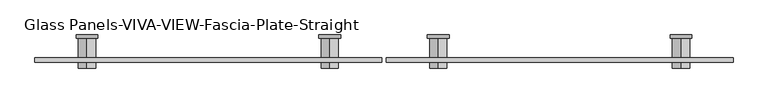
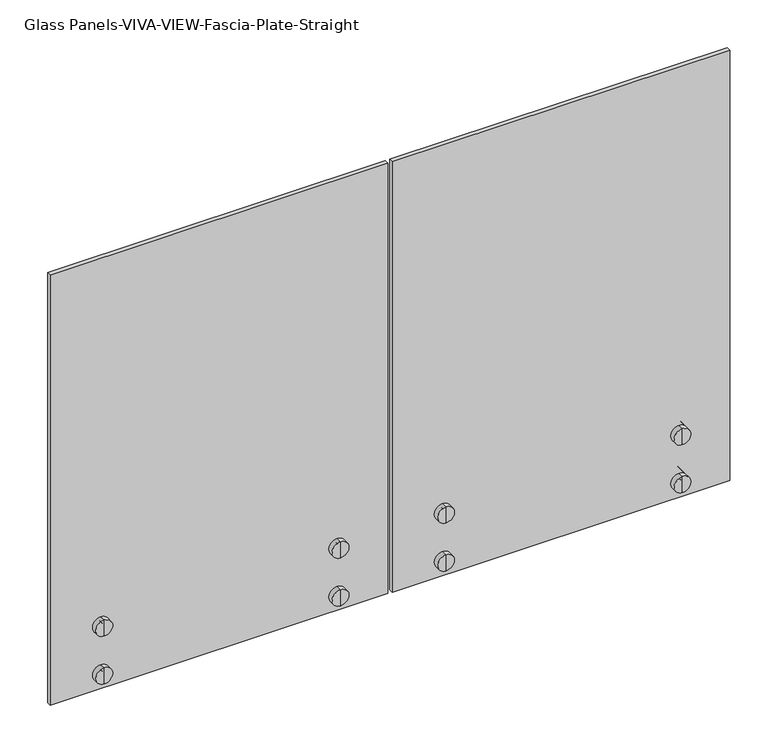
"""IFC4 building model written with IfcOpenShell, lengths in millimetres: railing geometry, Glass Panels-VIVA-VIEW-Fascia-Plate-Straight."""

from ifc_helpers import new_model, si_unit, point, frame, frame_2d, origin, place, context, project, spatial, polyline, circle_curve, trimmed, segment, composite_curve, outline, extrude, source, transform, mapped, element, save
from ifc_brep_helpers import plane_surface, cylinder_surface, advanced_brep


def glass_panels_viva_view_fascia_plate_straight_955ab671(model_context):
    return source(origin(), model_context, "Body", "SolidModel", [
        advanced_brep(
        [(16277.3042944, -15547.047006, -254.0), (16277.3042944, -15547.047006, -203.2), (16277.3042944, -15547.047006, -228.6), (16277.3042944, -15529.584506, -254.0), (16277.3042944, -15529.584506, -203.2), (16277.3042944, -15529.584506, -234.315), (16277.3042944, -15529.584506, -222.885), (16277.3042944, -15516.884506, -234.315), (16277.3042944, -15516.884506, -222.885), (16277.3042944, -15516.884506, -254.0), (16277.3042944, -15516.884506, -203.2), (16277.3042944, -15459.7346529, -254.0), (16277.3042944, -15459.7346529, -203.2), (16277.3042944, -15459.7346529, -228.6)],
        [
            (0, 1, circle_curve(frame((16277.3042944, -15547.047006, -228.6), z_axis=(0.0, -1.0, 0.0), x_axis=(0.0, 0.0, 1.0)), 25.4)),
            (1, 2),
            (2, 0),
            (1, 0, circle_curve(frame((16277.3042944, -15547.047006, -228.6), z_axis=(0.0, -1.0, 0.0), x_axis=(0.0, 0.0, 1.0)), 25.4)),
            (3, 4, circle_curve(frame((16277.3042944, -15529.584506, -228.6), z_axis=(0.0, -1.0, 0.0), x_axis=(0.0, 0.0, 1.0)), 25.4)),
            (4, 1),
            (0, 3),
            (4, 3, circle_curve(frame((16277.3042944, -15529.584506, -228.6), z_axis=(0.0, -1.0, 0.0), x_axis=(0.0, 0.0, 1.0)), 25.4)),
            (5, 6, circle_curve(frame((16277.3042944, -15529.584506, -228.6), z_axis=(0.0, -1.0, 0.0), x_axis=(0.0, 0.0, 1.0)), 5.715)),
            (6, 4),
            (3, 5),
            (6, 5, circle_curve(frame((16277.3042944, -15529.584506, -228.6), z_axis=(0.0, -1.0, 0.0), x_axis=(0.0, 0.0, 1.0)), 5.715)),
            (7, 8, circle_curve(frame((16277.3042944, -15516.884506, -228.6), z_axis=(0.0, -1.0, 0.0), x_axis=(0.0, 0.0, 1.0)), 5.715)),
            (8, 6),
            (5, 7),
            (8, 7, circle_curve(frame((16277.3042944, -15516.884506, -228.6), z_axis=(0.0, -1.0, 0.0), x_axis=(0.0, 0.0, 1.0)), 5.715)),
            (9, 10, circle_curve(frame((16277.3042944, -15516.884506, -228.6), z_axis=(0.0, -1.0, 0.0), x_axis=(0.0, 0.0, 1.0)), 25.4)),
            (10, 8),
            (7, 9),
            (10, 9, circle_curve(frame((16277.3042944, -15516.884506, -228.6), z_axis=(0.0, -1.0, 0.0), x_axis=(0.0, 0.0, 1.0)), 25.4)),
            (11, 12, circle_curve(frame((16277.3042944, -15459.7346529, -228.6), z_axis=(0.0, -1.0, 0.0), x_axis=(0.0, 0.0, 1.0)), 25.4)),
            (12, 10),
            (9, 11),
            (12, 11, circle_curve(frame((16277.3042944, -15459.7346529, -228.6), z_axis=(0.0, -1.0, 0.0), x_axis=(0.0, 0.0, 1.0)), 25.4)),
            (13, 12),
            (11, 13),
        ],
        [
            plane_surface(frame((16277.3042944, -15547.047006, -228.6), z_axis=(0.0, -1.0, 0.0), x_axis=(0.0, 0.0, 1.0))),
            cylinder_surface(frame((16277.3042944, -15615.3096529, -228.6), z_axis=(0.0, 1.0, 0.0), x_axis=(0.0, 0.0, 1.0)), 25.4),
            plane_surface(frame((16277.3042944, -15529.584506, -228.6), z_axis=(0.0, 1.0, 0.0), x_axis=(0.0, 0.0, 1.0))),
            cylinder_surface(frame((16277.3042944, -15615.3096529, -228.6), z_axis=(0.0, 1.0, 0.0), x_axis=(0.0, 0.0, 1.0)), 5.715),
            plane_surface(frame((16277.3042944, -15516.884506, -228.6), z_axis=(0.0, -1.0, 0.0), x_axis=(0.0, 0.0, 1.0))),
            plane_surface(frame((16277.3042944, -15459.7346529, -228.6), z_axis=(0.0, 1.0, 0.0), x_axis=(0.0, 0.0, 1.0))),
        ],
        [
            (0, [[1, 2, 3]]),
            (0, [[4, -3, -2]]),
            (1, [[5, 6, -1, 7]]),
            (1, [[8, -7, -4, -6]]),
            (2, [[9, 10, -5, 11]]),
            (2, [[12, -11, -8, -10]]),
            (3, [[13, 14, -9, 15]]),
            (3, [[16, -15, -12, -14]]),
            (4, [[17, 18, -13, 19]]),
            (4, [[20, -19, -16, -18]]),
            (1, [[21, 22, -17, 23]]),
            (1, [[24, -23, -20, -22]]),
            (5, [[25, -21, 26]]),
            (5, [[-26, -24, -25]]),
        ],
    ),
        advanced_brep(
        [(16277.3042944, -15529.584506, -81.915), (16277.3042944, -15529.584506, -70.485), (16277.3042944, -15529.584506, -50.8), (16277.3042944, -15529.584506, -101.6), (16277.3042944, -15516.884506, -81.915), (16277.3042944, -15516.884506, -70.485), (16277.3042944, -15516.884506, -101.6), (16277.3042944, -15516.884506, -50.8), (16277.3042944, -15459.7346529, -101.6), (16277.3042944, -15459.7346529, -50.8), (16277.3042944, -15459.7346529, -76.2), (16277.3042944, -15547.047006, -101.6), (16277.3042944, -15547.047006, -50.8), (16277.3042944, -15547.047006, -76.2)],
        [
            (0, 1, circle_curve(frame((16277.3042944, -15529.584506, -76.2), z_axis=(0.0, -1.0, 0.0), x_axis=(0.0, 0.0, 1.0)), 5.715)),
            (1, 2),
            (2, 3, circle_curve(frame((16277.3042944, -15529.584506, -76.2), z_axis=(0.0, 1.0, 0.0), x_axis=(0.0, 0.0, 1.0)), 25.4)),
            (3, 0),
            (1, 0, circle_curve(frame((16277.3042944, -15529.584506, -76.2), z_axis=(0.0, -1.0, 0.0), x_axis=(0.0, 0.0, 1.0)), 5.715)),
            (3, 2, circle_curve(frame((16277.3042944, -15529.584506, -76.2), z_axis=(0.0, 1.0, 0.0), x_axis=(0.0, 0.0, 1.0)), 25.4)),
            (4, 5, circle_curve(frame((16277.3042944, -15516.884506, -76.2), z_axis=(0.0, -1.0, 0.0), x_axis=(0.0, 0.0, 1.0)), 5.715)),
            (5, 1),
            (0, 4),
            (5, 4, circle_curve(frame((16277.3042944, -15516.884506, -76.2), z_axis=(0.0, -1.0, 0.0), x_axis=(0.0, 0.0, 1.0)), 5.715)),
            (6, 7, circle_curve(frame((16277.3042944, -15516.884506, -76.2), z_axis=(0.0, -1.0, 0.0), x_axis=(0.0, 0.0, 1.0)), 25.4)),
            (7, 5),
            (4, 6),
            (7, 6, circle_curve(frame((16277.3042944, -15516.884506, -76.2), z_axis=(0.0, -1.0, 0.0), x_axis=(0.0, 0.0, 1.0)), 25.4)),
            (8, 9, circle_curve(frame((16277.3042944, -15459.7346529, -76.2), z_axis=(0.0, -1.0, 0.0), x_axis=(0.0, 0.0, 1.0)), 25.4)),
            (9, 7),
            (6, 8),
            (9, 8, circle_curve(frame((16277.3042944, -15459.7346529, -76.2), z_axis=(0.0, -1.0, 0.0), x_axis=(0.0, 0.0, 1.0)), 25.4)),
            (10, 9),
            (8, 10),
            (11, 12, circle_curve(frame((16277.3042944, -15547.047006, -76.2), z_axis=(0.0, -1.0, 0.0), x_axis=(0.0, 0.0, 1.0)), 25.4)),
            (12, 13),
            (13, 11),
            (12, 11, circle_curve(frame((16277.3042944, -15547.047006, -76.2), z_axis=(0.0, -1.0, 0.0), x_axis=(0.0, 0.0, 1.0)), 25.4)),
            (2, 12),
            (11, 3),
        ],
        [
            plane_surface(frame((16277.3042944, -15529.584506, -76.2), z_axis=(0.0, 1.0, 0.0), x_axis=(0.0, 0.0, 1.0))),
            cylinder_surface(frame((16277.3042944, -15615.3096529, -76.2), z_axis=(0.0, 1.0, 0.0), x_axis=(0.0, 0.0, 1.0)), 5.715),
            plane_surface(frame((16277.3042944, -15516.884506, -76.2), z_axis=(0.0, -1.0, 0.0), x_axis=(0.0, 0.0, 1.0))),
            cylinder_surface(frame((16277.3042944, -15615.3096529, -76.2), z_axis=(0.0, 1.0, 0.0), x_axis=(0.0, 0.0, 1.0)), 25.4),
            plane_surface(frame((16277.3042944, -15459.7346529, -76.2), z_axis=(0.0, 1.0, 0.0), x_axis=(0.0, 0.0, 1.0))),
            plane_surface(frame((16277.3042944, -15547.047006, -76.2), z_axis=(0.0, -1.0, 0.0), x_axis=(0.0, 0.0, 1.0))),
        ],
        [
            (0, [[1, 2, 3, 4]]),
            (0, [[5, -4, 6, -2]]),
            (1, [[7, 8, -1, 9]]),
            (1, [[10, -9, -5, -8]]),
            (2, [[11, 12, -7, 13]]),
            (2, [[14, -13, -10, -12]]),
            (3, [[15, 16, -11, 17]]),
            (3, [[18, -17, -14, -16]]),
            (4, [[19, -15, 20]]),
            (4, [[-20, -18, -19]]),
            (5, [[21, 22, 23]]),
            (5, [[24, -23, -22]]),
            (3, [[-3, 25, -21, 26]]),
            (3, [[-6, -26, -24, -25]]),
        ],
    ),
        extrude(outline(composite_curve([segment(polyline([(-76.2, 16245.5542944), (-228.6, 16245.5542944)]), True, "CONTINUOUS"), segment(trimmed(circle_curve(frame_2d((-228.6, 16277.3042944)), 31.75), [point((-228.6, 16245.5542944))], [point((-228.6, 16309.0542944))], False, "CARTESIAN"), True, "CONTINUOUS"), segment(polyline([(-228.6, 16309.0542944), (-76.2, 16309.0542944)]), True, "CONTINUOUS"), segment(trimmed(circle_curve(frame_2d((-76.2, 16277.3042944)), 31.75), [point((-76.2, 16309.0542944))], [point((-76.2, 16245.5542944))], False, "CARTESIAN"), True, "CONTINUOUS")], self_intersect=False)), frame((0.0, -15459.7346529, 0.0), z_axis=(0.0, 1.0, 0.0), x_axis=(0.0, 0.0, 1.0)), (0.0, 0.0, 1.0), 9.525),
        advanced_brep(
        [(16988.5042944, -15547.047006, -254.0), (16988.5042944, -15547.047006, -203.2), (16988.5042944, -15547.047006, -228.6), (16988.5042944, -15529.584506, -254.0), (16988.5042944, -15529.584506, -203.2), (16988.5042944, -15529.584506, -234.315), (16988.5042944, -15529.584506, -222.885), (16988.5042944, -15516.884506, -234.315), (16988.5042944, -15516.884506, -222.885), (16988.5042944, -15516.884506, -254.0), (16988.5042944, -15516.884506, -203.2), (16988.5042944, -15459.7346529, -254.0), (16988.5042944, -15459.7346529, -203.2), (16988.5042944, -15459.7346529, -228.6)],
        [
            (0, 1, circle_curve(frame((16988.5042944, -15547.047006, -228.6), z_axis=(0.0, -1.0, 0.0), x_axis=(0.0, 0.0, 1.0)), 25.4)),
            (1, 2),
            (2, 0),
            (1, 0, circle_curve(frame((16988.5042944, -15547.047006, -228.6), z_axis=(0.0, -1.0, 0.0), x_axis=(0.0, 0.0, 1.0)), 25.4)),
            (3, 4, circle_curve(frame((16988.5042944, -15529.584506, -228.6), z_axis=(0.0, -1.0, 0.0), x_axis=(0.0, 0.0, 1.0)), 25.4)),
            (4, 1),
            (0, 3),
            (4, 3, circle_curve(frame((16988.5042944, -15529.584506, -228.6), z_axis=(0.0, -1.0, 0.0), x_axis=(0.0, 0.0, 1.0)), 25.4)),
            (5, 6, circle_curve(frame((16988.5042944, -15529.584506, -228.6), z_axis=(0.0, -1.0, 0.0), x_axis=(0.0, 0.0, 1.0)), 5.715)),
            (6, 4),
            (3, 5),
            (6, 5, circle_curve(frame((16988.5042944, -15529.584506, -228.6), z_axis=(0.0, -1.0, 0.0), x_axis=(0.0, 0.0, 1.0)), 5.715)),
            (7, 8, circle_curve(frame((16988.5042944, -15516.884506, -228.6), z_axis=(0.0, -1.0, 0.0), x_axis=(0.0, 0.0, 1.0)), 5.715)),
            (8, 6),
            (5, 7),
            (8, 7, circle_curve(frame((16988.5042944, -15516.884506, -228.6), z_axis=(0.0, -1.0, 0.0), x_axis=(0.0, 0.0, 1.0)), 5.715)),
            (9, 10, circle_curve(frame((16988.5042944, -15516.884506, -228.6), z_axis=(0.0, -1.0, 0.0), x_axis=(0.0, 0.0, 1.0)), 25.4)),
            (10, 8),
            (7, 9),
            (10, 9, circle_curve(frame((16988.5042944, -15516.884506, -228.6), z_axis=(0.0, -1.0, 0.0), x_axis=(0.0, 0.0, 1.0)), 25.4)),
            (11, 12, circle_curve(frame((16988.5042944, -15459.7346529, -228.6), z_axis=(0.0, -1.0, 0.0), x_axis=(0.0, 0.0, 1.0)), 25.4)),
            (12, 10),
            (9, 11),
            (12, 11, circle_curve(frame((16988.5042944, -15459.7346529, -228.6), z_axis=(0.0, -1.0, 0.0), x_axis=(0.0, 0.0, 1.0)), 25.4)),
            (13, 12),
            (11, 13),
        ],
        [
            plane_surface(frame((16988.5042944, -15547.047006, -228.6), z_axis=(0.0, -1.0, 0.0), x_axis=(0.0, 0.0, 1.0))),
            cylinder_surface(frame((16988.5042944, -15615.3096529, -228.6), z_axis=(0.0, 1.0, 0.0), x_axis=(0.0, 0.0, 1.0)), 25.4),
            plane_surface(frame((16988.5042944, -15529.584506, -228.6), z_axis=(0.0, 1.0, 0.0), x_axis=(0.0, 0.0, 1.0))),
            cylinder_surface(frame((16988.5042944, -15615.3096529, -228.6), z_axis=(0.0, 1.0, 0.0), x_axis=(0.0, 0.0, 1.0)), 5.715),
            plane_surface(frame((16988.5042944, -15516.884506, -228.6), z_axis=(0.0, -1.0, 0.0), x_axis=(0.0, 0.0, 1.0))),
            plane_surface(frame((16988.5042944, -15459.7346529, -228.6), z_axis=(0.0, 1.0, 0.0), x_axis=(0.0, 0.0, 1.0))),
        ],
        [
            (0, [[1, 2, 3]]),
            (0, [[4, -3, -2]]),
            (1, [[5, 6, -1, 7]]),
            (1, [[8, -7, -4, -6]]),
            (2, [[9, 10, -5, 11]]),
            (2, [[12, -11, -8, -10]]),
            (3, [[13, 14, -9, 15]]),
            (3, [[16, -15, -12, -14]]),
            (4, [[17, 18, -13, 19]]),
            (4, [[20, -19, -16, -18]]),
            (1, [[21, 22, -17, 23]]),
            (1, [[24, -23, -20, -22]]),
            (5, [[25, -21, 26]]),
            (5, [[-26, -24, -25]]),
        ],
    ),
        advanced_brep(
        [(16988.5042944, -15529.584506, -81.915), (16988.5042944, -15529.584506, -70.485), (16988.5042944, -15529.584506, -50.8), (16988.5042944, -15529.584506, -101.6), (16988.5042944, -15516.884506, -81.915), (16988.5042944, -15516.884506, -70.485), (16988.5042944, -15516.884506, -101.6), (16988.5042944, -15516.884506, -50.8), (16988.5042944, -15459.7346529, -101.6), (16988.5042944, -15459.7346529, -50.8), (16988.5042944, -15459.7346529, -76.2), (16988.5042944, -15547.047006, -101.6), (16988.5042944, -15547.047006, -50.8), (16988.5042944, -15547.047006, -76.2)],
        [
            (0, 1, circle_curve(frame((16988.5042944, -15529.584506, -76.2), z_axis=(0.0, -1.0, 0.0), x_axis=(0.0, 0.0, 1.0)), 5.715)),
            (1, 2),
            (2, 3, circle_curve(frame((16988.5042944, -15529.584506, -76.2), z_axis=(0.0, 1.0, 0.0), x_axis=(0.0, 0.0, 1.0)), 25.4)),
            (3, 0),
            (1, 0, circle_curve(frame((16988.5042944, -15529.584506, -76.2), z_axis=(0.0, -1.0, 0.0), x_axis=(0.0, 0.0, 1.0)), 5.715)),
            (3, 2, circle_curve(frame((16988.5042944, -15529.584506, -76.2), z_axis=(0.0, 1.0, 0.0), x_axis=(0.0, 0.0, 1.0)), 25.4)),
            (4, 5, circle_curve(frame((16988.5042944, -15516.884506, -76.2), z_axis=(0.0, -1.0, 0.0), x_axis=(0.0, 0.0, 1.0)), 5.715)),
            (5, 1),
            (0, 4),
            (5, 4, circle_curve(frame((16988.5042944, -15516.884506, -76.2), z_axis=(0.0, -1.0, 0.0), x_axis=(0.0, 0.0, 1.0)), 5.715)),
            (6, 7, circle_curve(frame((16988.5042944, -15516.884506, -76.2), z_axis=(0.0, -1.0, 0.0), x_axis=(0.0, 0.0, 1.0)), 25.4)),
            (7, 5),
            (4, 6),
            (7, 6, circle_curve(frame((16988.5042944, -15516.884506, -76.2), z_axis=(0.0, -1.0, 0.0), x_axis=(0.0, 0.0, 1.0)), 25.4)),
            (8, 9, circle_curve(frame((16988.5042944, -15459.7346529, -76.2), z_axis=(0.0, -1.0, 0.0), x_axis=(0.0, 0.0, 1.0)), 25.4)),
            (9, 7),
            (6, 8),
            (9, 8, circle_curve(frame((16988.5042944, -15459.7346529, -76.2), z_axis=(0.0, -1.0, 0.0), x_axis=(0.0, 0.0, 1.0)), 25.4)),
            (10, 9),
            (8, 10),
            (11, 12, circle_curve(frame((16988.5042944, -15547.047006, -76.2), z_axis=(0.0, -1.0, 0.0), x_axis=(0.0, 0.0, 1.0)), 25.4)),
            (12, 13),
            (13, 11),
            (12, 11, circle_curve(frame((16988.5042944, -15547.047006, -76.2), z_axis=(0.0, -1.0, 0.0), x_axis=(0.0, 0.0, 1.0)), 25.4)),
            (2, 12),
            (11, 3),
        ],
        [
            plane_surface(frame((16988.5042944, -15529.584506, -76.2), z_axis=(0.0, 1.0, 0.0), x_axis=(0.0, 0.0, 1.0))),
            cylinder_surface(frame((16988.5042944, -15615.3096529, -76.2), z_axis=(0.0, 1.0, 0.0), x_axis=(0.0, 0.0, 1.0)), 5.715),
            plane_surface(frame((16988.5042944, -15516.884506, -76.2), z_axis=(0.0, -1.0, 0.0), x_axis=(0.0, 0.0, 1.0))),
            cylinder_surface(frame((16988.5042944, -15615.3096529, -76.2), z_axis=(0.0, 1.0, 0.0), x_axis=(0.0, 0.0, 1.0)), 25.4),
            plane_surface(frame((16988.5042944, -15459.7346529, -76.2), z_axis=(0.0, 1.0, 0.0), x_axis=(0.0, 0.0, 1.0))),
            plane_surface(frame((16988.5042944, -15547.047006, -76.2), z_axis=(0.0, -1.0, 0.0), x_axis=(0.0, 0.0, 1.0))),
        ],
        [
            (0, [[1, 2, 3, 4]]),
            (0, [[5, -4, 6, -2]]),
            (1, [[7, 8, -1, 9]]),
            (1, [[10, -9, -5, -8]]),
            (2, [[11, 12, -7, 13]]),
            (2, [[14, -13, -10, -12]]),
            (3, [[15, 16, -11, 17]]),
            (3, [[18, -17, -14, -16]]),
            (4, [[19, -15, 20]]),
            (4, [[-20, -18, -19]]),
            (5, [[21, 22, 23]]),
            (5, [[24, -23, -22]]),
            (3, [[-3, 25, -21, 26]]),
            (3, [[-6, -26, -24, -25]]),
        ],
    ),
        extrude(outline(composite_curve([segment(polyline([(-76.2, 16956.7542944), (-228.6, 16956.7542944)]), True, "CONTINUOUS"), segment(trimmed(circle_curve(frame_2d((-228.6, 16988.5042944)), 31.75), [point((-228.6, 16956.7542944))], [point((-228.6, 17020.2542944))], False, "CARTESIAN"), True, "CONTINUOUS"), segment(polyline([(-228.6, 17020.2542944), (-76.2, 17020.2542944)]), True, "CONTINUOUS"), segment(trimmed(circle_curve(frame_2d((-76.2, 16988.5042944)), 31.75), [point((-76.2, 17020.2542944))], [point((-76.2, 16956.7542944))], False, "CARTESIAN"), True, "CONTINUOUS")], self_intersect=False)), frame((0.0, -15459.7346529, 0.0), z_axis=(0.0, 1.0, 0.0), x_axis=(0.0, 0.0, 1.0)), (0.0, 0.0, 1.0), 9.525),
        extrude(outline(polyline([(16124.9042944, -15516.8847999), (17140.9042944, -15516.8847999), (17140.9042944, -15529.5847999), (16124.9042944, -15529.5847999), (16124.9042944, -15516.8847999)])), frame((0.0, 0.0, -279.4), z_axis=(0.0, 0.0, 1.0), x_axis=(1.0, 0.0, 0.0)), (0.0, 0.0, 1.0), 1370.0125),
        advanced_brep(
        [(15248.6042944, -15547.047006, -254.0), (15248.6042944, -15547.047006, -203.2), (15248.6042944, -15547.047006, -228.6), (15248.6042944, -15529.584506, -254.0), (15248.6042944, -15529.584506, -203.2), (15248.6042944, -15529.584506, -234.315), (15248.6042944, -15529.584506, -222.885), (15248.6042944, -15516.884506, -234.315), (15248.6042944, -15516.884506, -222.885), (15248.6042944, -15516.884506, -254.0), (15248.6042944, -15516.884506, -203.2), (15248.6042944, -15459.7346529, -254.0), (15248.6042944, -15459.7346529, -203.2), (15248.6042944, -15459.7346529, -228.6)],
        [
            (0, 1, circle_curve(frame((15248.6042944, -15547.047006, -228.6), z_axis=(0.0, -1.0, 0.0), x_axis=(0.0, 0.0, 1.0)), 25.4)),
            (1, 2),
            (2, 0),
            (1, 0, circle_curve(frame((15248.6042944, -15547.047006, -228.6), z_axis=(0.0, -1.0, 0.0), x_axis=(0.0, 0.0, 1.0)), 25.4)),
            (3, 4, circle_curve(frame((15248.6042944, -15529.584506, -228.6), z_axis=(0.0, -1.0, 0.0), x_axis=(0.0, 0.0, 1.0)), 25.4)),
            (4, 1),
            (0, 3),
            (4, 3, circle_curve(frame((15248.6042944, -15529.584506, -228.6), z_axis=(0.0, -1.0, 0.0), x_axis=(0.0, 0.0, 1.0)), 25.4)),
            (5, 6, circle_curve(frame((15248.6042944, -15529.584506, -228.6), z_axis=(0.0, -1.0, 0.0), x_axis=(0.0, 0.0, 1.0)), 5.715)),
            (6, 4),
            (3, 5),
            (6, 5, circle_curve(frame((15248.6042944, -15529.584506, -228.6), z_axis=(0.0, -1.0, 0.0), x_axis=(0.0, 0.0, 1.0)), 5.715)),
            (7, 8, circle_curve(frame((15248.6042944, -15516.884506, -228.6), z_axis=(0.0, -1.0, 0.0), x_axis=(0.0, 0.0, 1.0)), 5.715)),
            (8, 6),
            (5, 7),
            (8, 7, circle_curve(frame((15248.6042944, -15516.884506, -228.6), z_axis=(0.0, -1.0, 0.0), x_axis=(0.0, 0.0, 1.0)), 5.715)),
            (9, 10, circle_curve(frame((15248.6042944, -15516.884506, -228.6), z_axis=(0.0, -1.0, 0.0), x_axis=(0.0, 0.0, 1.0)), 25.4)),
            (10, 8),
            (7, 9),
            (10, 9, circle_curve(frame((15248.6042944, -15516.884506, -228.6), z_axis=(0.0, -1.0, 0.0), x_axis=(0.0, 0.0, 1.0)), 25.4)),
            (11, 12, circle_curve(frame((15248.6042944, -15459.7346529, -228.6), z_axis=(0.0, -1.0, 0.0), x_axis=(0.0, 0.0, 1.0)), 25.4)),
            (12, 10),
            (9, 11),
            (12, 11, circle_curve(frame((15248.6042944, -15459.7346529, -228.6), z_axis=(0.0, -1.0, 0.0), x_axis=(0.0, 0.0, 1.0)), 25.4)),
            (13, 12),
            (11, 13),
        ],
        [
            plane_surface(frame((15248.6042944, -15547.047006, -228.6), z_axis=(0.0, -1.0, 0.0), x_axis=(0.0, 0.0, 1.0))),
            cylinder_surface(frame((15248.6042944, -15615.3096529, -228.6), z_axis=(0.0, 1.0, 0.0), x_axis=(0.0, 0.0, 1.0)), 25.4),
            plane_surface(frame((15248.6042944, -15529.584506, -228.6), z_axis=(0.0, 1.0, 0.0), x_axis=(0.0, 0.0, 1.0))),
            cylinder_surface(frame((15248.6042944, -15615.3096529, -228.6), z_axis=(0.0, 1.0, 0.0), x_axis=(0.0, 0.0, 1.0)), 5.715),
            plane_surface(frame((15248.6042944, -15516.884506, -228.6), z_axis=(0.0, -1.0, 0.0), x_axis=(0.0, 0.0, 1.0))),
            plane_surface(frame((15248.6042944, -15459.7346529, -228.6), z_axis=(0.0, 1.0, 0.0), x_axis=(0.0, 0.0, 1.0))),
        ],
        [
            (0, [[1, 2, 3]]),
            (0, [[4, -3, -2]]),
            (1, [[5, 6, -1, 7]]),
            (1, [[8, -7, -4, -6]]),
            (2, [[9, 10, -5, 11]]),
            (2, [[12, -11, -8, -10]]),
            (3, [[13, 14, -9, 15]]),
            (3, [[16, -15, -12, -14]]),
            (4, [[17, 18, -13, 19]]),
            (4, [[20, -19, -16, -18]]),
            (1, [[21, 22, -17, 23]]),
            (1, [[24, -23, -20, -22]]),
            (5, [[25, -21, 26]]),
            (5, [[-26, -24, -25]]),
        ],
    ),
        advanced_brep(
        [(15248.6042944, -15529.584506, -81.915), (15248.6042944, -15529.584506, -70.485), (15248.6042944, -15529.584506, -50.8), (15248.6042944, -15529.584506, -101.6), (15248.6042944, -15516.884506, -81.915), (15248.6042944, -15516.884506, -70.485), (15248.6042944, -15516.884506, -101.6), (15248.6042944, -15516.884506, -50.8), (15248.6042944, -15459.7346529, -101.6), (15248.6042944, -15459.7346529, -50.8), (15248.6042944, -15459.7346529, -76.2), (15248.6042944, -15547.047006, -101.6), (15248.6042944, -15547.047006, -50.8), (15248.6042944, -15547.047006, -76.2)],
        [
            (0, 1, circle_curve(frame((15248.6042944, -15529.584506, -76.2), z_axis=(0.0, -1.0, 0.0), x_axis=(0.0, 0.0, 1.0)), 5.715)),
            (1, 2),
            (2, 3, circle_curve(frame((15248.6042944, -15529.584506, -76.2), z_axis=(0.0, 1.0, 0.0), x_axis=(0.0, 0.0, 1.0)), 25.4)),
            (3, 0),
            (1, 0, circle_curve(frame((15248.6042944, -15529.584506, -76.2), z_axis=(0.0, -1.0, 0.0), x_axis=(0.0, 0.0, 1.0)), 5.715)),
            (3, 2, circle_curve(frame((15248.6042944, -15529.584506, -76.2), z_axis=(0.0, 1.0, 0.0), x_axis=(0.0, 0.0, 1.0)), 25.4)),
            (4, 5, circle_curve(frame((15248.6042944, -15516.884506, -76.2), z_axis=(0.0, -1.0, 0.0), x_axis=(0.0, 0.0, 1.0)), 5.715)),
            (5, 1),
            (0, 4),
            (5, 4, circle_curve(frame((15248.6042944, -15516.884506, -76.2), z_axis=(0.0, -1.0, 0.0), x_axis=(0.0, 0.0, 1.0)), 5.715)),
            (6, 7, circle_curve(frame((15248.6042944, -15516.884506, -76.2), z_axis=(0.0, -1.0, 0.0), x_axis=(0.0, 0.0, 1.0)), 25.4)),
            (7, 5),
            (4, 6),
            (7, 6, circle_curve(frame((15248.6042944, -15516.884506, -76.2), z_axis=(0.0, -1.0, 0.0), x_axis=(0.0, 0.0, 1.0)), 25.4)),
            (8, 9, circle_curve(frame((15248.6042944, -15459.7346529, -76.2), z_axis=(0.0, -1.0, 0.0), x_axis=(0.0, 0.0, 1.0)), 25.4)),
            (9, 7),
            (6, 8),
            (9, 8, circle_curve(frame((15248.6042944, -15459.7346529, -76.2), z_axis=(0.0, -1.0, 0.0), x_axis=(0.0, 0.0, 1.0)), 25.4)),
            (10, 9),
            (8, 10),
            (11, 12, circle_curve(frame((15248.6042944, -15547.047006, -76.2), z_axis=(0.0, -1.0, 0.0), x_axis=(0.0, 0.0, 1.0)), 25.4)),
            (12, 13),
            (13, 11),
            (12, 11, circle_curve(frame((15248.6042944, -15547.047006, -76.2), z_axis=(0.0, -1.0, 0.0), x_axis=(0.0, 0.0, 1.0)), 25.4)),
            (2, 12),
            (11, 3),
        ],
        [
            plane_surface(frame((15248.6042944, -15529.584506, -76.2), z_axis=(0.0, 1.0, 0.0), x_axis=(0.0, 0.0, 1.0))),
            cylinder_surface(frame((15248.6042944, -15615.3096529, -76.2), z_axis=(0.0, 1.0, 0.0), x_axis=(0.0, 0.0, 1.0)), 5.715),
            plane_surface(frame((15248.6042944, -15516.884506, -76.2), z_axis=(0.0, -1.0, 0.0), x_axis=(0.0, 0.0, 1.0))),
            cylinder_surface(frame((15248.6042944, -15615.3096529, -76.2), z_axis=(0.0, 1.0, 0.0), x_axis=(0.0, 0.0, 1.0)), 25.4),
            plane_surface(frame((15248.6042944, -15459.7346529, -76.2), z_axis=(0.0, 1.0, 0.0), x_axis=(0.0, 0.0, 1.0))),
            plane_surface(frame((15248.6042944, -15547.047006, -76.2), z_axis=(0.0, -1.0, 0.0), x_axis=(0.0, 0.0, 1.0))),
        ],
        [
            (0, [[1, 2, 3, 4]]),
            (0, [[5, -4, 6, -2]]),
            (1, [[7, 8, -1, 9]]),
            (1, [[10, -9, -5, -8]]),
            (2, [[11, 12, -7, 13]]),
            (2, [[14, -13, -10, -12]]),
            (3, [[15, 16, -11, 17]]),
            (3, [[18, -17, -14, -16]]),
            (4, [[19, -15, 20]]),
            (4, [[-20, -18, -19]]),
            (5, [[21, 22, 23]]),
            (5, [[24, -23, -22]]),
            (3, [[-3, 25, -21, 26]]),
            (3, [[-6, -26, -24, -25]]),
        ],
    ),
        extrude(outline(composite_curve([segment(polyline([(-76.2, 15216.8542944), (-228.6, 15216.8542944)]), True, "CONTINUOUS"), segment(trimmed(circle_curve(frame_2d((-228.6, 15248.6042944)), 31.75), [point((-228.6, 15216.8542944))], [point((-228.6, 15280.3542944))], False, "CARTESIAN"), True, "CONTINUOUS"), segment(polyline([(-228.6, 15280.3542944), (-76.2, 15280.3542944)]), True, "CONTINUOUS"), segment(trimmed(circle_curve(frame_2d((-76.2, 15248.6042944)), 31.75), [point((-76.2, 15280.3542944))], [point((-76.2, 15216.8542944))], False, "CARTESIAN"), True, "CONTINUOUS")], self_intersect=False)), frame((0.0, -15459.7346529, 0.0), z_axis=(0.0, 1.0, 0.0), x_axis=(0.0, 0.0, 1.0)), (0.0, 0.0, 1.0), 9.525),
        advanced_brep(
        [(15959.8042944, -15547.047006, -254.0), (15959.8042944, -15547.047006, -203.2), (15959.8042944, -15547.047006, -228.6), (15959.8042944, -15529.584506, -254.0), (15959.8042944, -15529.584506, -203.2), (15959.8042944, -15529.584506, -234.315), (15959.8042944, -15529.584506, -222.885), (15959.8042944, -15516.884506, -234.315), (15959.8042944, -15516.884506, -222.885), (15959.8042944, -15516.884506, -254.0), (15959.8042944, -15516.884506, -203.2), (15959.8042944, -15459.7346529, -254.0), (15959.8042944, -15459.7346529, -203.2), (15959.8042944, -15459.7346529, -228.6)],
        [
            (0, 1, circle_curve(frame((15959.8042944, -15547.047006, -228.6), z_axis=(0.0, -1.0, 0.0), x_axis=(0.0, 0.0, 1.0)), 25.4)),
            (1, 2),
            (2, 0),
            (1, 0, circle_curve(frame((15959.8042944, -15547.047006, -228.6), z_axis=(0.0, -1.0, 0.0), x_axis=(0.0, 0.0, 1.0)), 25.4)),
            (3, 4, circle_curve(frame((15959.8042944, -15529.584506, -228.6), z_axis=(0.0, -1.0, 0.0), x_axis=(0.0, 0.0, 1.0)), 25.4)),
            (4, 1),
            (0, 3),
            (4, 3, circle_curve(frame((15959.8042944, -15529.584506, -228.6), z_axis=(0.0, -1.0, 0.0), x_axis=(0.0, 0.0, 1.0)), 25.4)),
            (5, 6, circle_curve(frame((15959.8042944, -15529.584506, -228.6), z_axis=(0.0, -1.0, 0.0), x_axis=(0.0, 0.0, 1.0)), 5.715)),
            (6, 4),
            (3, 5),
            (6, 5, circle_curve(frame((15959.8042944, -15529.584506, -228.6), z_axis=(0.0, -1.0, 0.0), x_axis=(0.0, 0.0, 1.0)), 5.715)),
            (7, 8, circle_curve(frame((15959.8042944, -15516.884506, -228.6), z_axis=(0.0, -1.0, 0.0), x_axis=(0.0, 0.0, 1.0)), 5.715)),
            (8, 6),
            (5, 7),
            (8, 7, circle_curve(frame((15959.8042944, -15516.884506, -228.6), z_axis=(0.0, -1.0, 0.0), x_axis=(0.0, 0.0, 1.0)), 5.715)),
            (9, 10, circle_curve(frame((15959.8042944, -15516.884506, -228.6), z_axis=(0.0, -1.0, 0.0), x_axis=(0.0, 0.0, 1.0)), 25.4)),
            (10, 8),
            (7, 9),
            (10, 9, circle_curve(frame((15959.8042944, -15516.884506, -228.6), z_axis=(0.0, -1.0, 0.0), x_axis=(0.0, 0.0, 1.0)), 25.4)),
            (11, 12, circle_curve(frame((15959.8042944, -15459.7346529, -228.6), z_axis=(0.0, -1.0, 0.0), x_axis=(0.0, 0.0, 1.0)), 25.4)),
            (12, 10),
            (9, 11),
            (12, 11, circle_curve(frame((15959.8042944, -15459.7346529, -228.6), z_axis=(0.0, -1.0, 0.0), x_axis=(0.0, 0.0, 1.0)), 25.4)),
            (13, 12),
            (11, 13),
        ],
        [
            plane_surface(frame((15959.8042944, -15547.047006, -228.6), z_axis=(0.0, -1.0, 0.0), x_axis=(0.0, 0.0, 1.0))),
            cylinder_surface(frame((15959.8042944, -15615.3096529, -228.6), z_axis=(0.0, 1.0, 0.0), x_axis=(0.0, 0.0, 1.0)), 25.4),
            plane_surface(frame((15959.8042944, -15529.584506, -228.6), z_axis=(0.0, 1.0, 0.0), x_axis=(0.0, 0.0, 1.0))),
            cylinder_surface(frame((15959.8042944, -15615.3096529, -228.6), z_axis=(0.0, 1.0, 0.0), x_axis=(0.0, 0.0, 1.0)), 5.715),
            plane_surface(frame((15959.8042944, -15516.884506, -228.6), z_axis=(0.0, -1.0, 0.0), x_axis=(0.0, 0.0, 1.0))),
            plane_surface(frame((15959.8042944, -15459.7346529, -228.6), z_axis=(0.0, 1.0, 0.0), x_axis=(0.0, 0.0, 1.0))),
        ],
        [
            (0, [[1, 2, 3]]),
            (0, [[4, -3, -2]]),
            (1, [[5, 6, -1, 7]]),
            (1, [[8, -7, -4, -6]]),
            (2, [[9, 10, -5, 11]]),
            (2, [[12, -11, -8, -10]]),
            (3, [[13, 14, -9, 15]]),
            (3, [[16, -15, -12, -14]]),
            (4, [[17, 18, -13, 19]]),
            (4, [[20, -19, -16, -18]]),
            (1, [[21, 22, -17, 23]]),
            (1, [[24, -23, -20, -22]]),
            (5, [[25, -21, 26]]),
            (5, [[-26, -24, -25]]),
        ],
    ),
        advanced_brep(
        [(15959.8042944, -15529.584506, -81.915), (15959.8042944, -15529.584506, -70.485), (15959.8042944, -15529.584506, -50.8), (15959.8042944, -15529.584506, -101.6), (15959.8042944, -15516.884506, -81.915), (15959.8042944, -15516.884506, -70.485), (15959.8042944, -15516.884506, -101.6), (15959.8042944, -15516.884506, -50.8), (15959.8042944, -15459.7346529, -101.6), (15959.8042944, -15459.7346529, -50.8), (15959.8042944, -15459.7346529, -76.2), (15959.8042944, -15547.047006, -101.6), (15959.8042944, -15547.047006, -50.8), (15959.8042944, -15547.047006, -76.2)],
        [
            (0, 1, circle_curve(frame((15959.8042944, -15529.584506, -76.2), z_axis=(0.0, -1.0, 0.0), x_axis=(0.0, 0.0, 1.0)), 5.715)),
            (1, 2),
            (2, 3, circle_curve(frame((15959.8042944, -15529.584506, -76.2), z_axis=(0.0, 1.0, 0.0), x_axis=(0.0, 0.0, 1.0)), 25.4)),
            (3, 0),
            (1, 0, circle_curve(frame((15959.8042944, -15529.584506, -76.2), z_axis=(0.0, -1.0, 0.0), x_axis=(0.0, 0.0, 1.0)), 5.715)),
            (3, 2, circle_curve(frame((15959.8042944, -15529.584506, -76.2), z_axis=(0.0, 1.0, 0.0), x_axis=(0.0, 0.0, 1.0)), 25.4)),
            (4, 5, circle_curve(frame((15959.8042944, -15516.884506, -76.2), z_axis=(0.0, -1.0, 0.0), x_axis=(0.0, 0.0, 1.0)), 5.715)),
            (5, 1),
            (0, 4),
            (5, 4, circle_curve(frame((15959.8042944, -15516.884506, -76.2), z_axis=(0.0, -1.0, 0.0), x_axis=(0.0, 0.0, 1.0)), 5.715)),
            (6, 7, circle_curve(frame((15959.8042944, -15516.884506, -76.2), z_axis=(0.0, -1.0, 0.0), x_axis=(0.0, 0.0, 1.0)), 25.4)),
            (7, 5),
            (4, 6),
            (7, 6, circle_curve(frame((15959.8042944, -15516.884506, -76.2), z_axis=(0.0, -1.0, 0.0), x_axis=(0.0, 0.0, 1.0)), 25.4)),
            (8, 9, circle_curve(frame((15959.8042944, -15459.7346529, -76.2), z_axis=(0.0, -1.0, 0.0), x_axis=(0.0, 0.0, 1.0)), 25.4)),
            (9, 7),
            (6, 8),
            (9, 8, circle_curve(frame((15959.8042944, -15459.7346529, -76.2), z_axis=(0.0, -1.0, 0.0), x_axis=(0.0, 0.0, 1.0)), 25.4)),
            (10, 9),
            (8, 10),
            (11, 12, circle_curve(frame((15959.8042944, -15547.047006, -76.2), z_axis=(0.0, -1.0, 0.0), x_axis=(0.0, 0.0, 1.0)), 25.4)),
            (12, 13),
            (13, 11),
            (12, 11, circle_curve(frame((15959.8042944, -15547.047006, -76.2), z_axis=(0.0, -1.0, 0.0), x_axis=(0.0, 0.0, 1.0)), 25.4)),
            (2, 12),
            (11, 3),
        ],
        [
            plane_surface(frame((15959.8042944, -15529.584506, -76.2), z_axis=(0.0, 1.0, 0.0), x_axis=(0.0, 0.0, 1.0))),
            cylinder_surface(frame((15959.8042944, -15615.3096529, -76.2), z_axis=(0.0, 1.0, 0.0), x_axis=(0.0, 0.0, 1.0)), 5.715),
            plane_surface(frame((15959.8042944, -15516.884506, -76.2), z_axis=(0.0, -1.0, 0.0), x_axis=(0.0, 0.0, 1.0))),
            cylinder_surface(frame((15959.8042944, -15615.3096529, -76.2), z_axis=(0.0, 1.0, 0.0), x_axis=(0.0, 0.0, 1.0)), 25.4),
            plane_surface(frame((15959.8042944, -15459.7346529, -76.2), z_axis=(0.0, 1.0, 0.0), x_axis=(0.0, 0.0, 1.0))),
            plane_surface(frame((15959.8042944, -15547.047006, -76.2), z_axis=(0.0, -1.0, 0.0), x_axis=(0.0, 0.0, 1.0))),
        ],
        [
            (0, [[1, 2, 3, 4]]),
            (0, [[5, -4, 6, -2]]),
            (1, [[7, 8, -1, 9]]),
            (1, [[10, -9, -5, -8]]),
            (2, [[11, 12, -7, 13]]),
            (2, [[14, -13, -10, -12]]),
            (3, [[15, 16, -11, 17]]),
            (3, [[18, -17, -14, -16]]),
            (4, [[19, -15, 20]]),
            (4, [[-20, -18, -19]]),
            (5, [[21, 22, 23]]),
            (5, [[24, -23, -22]]),
            (3, [[-3, 25, -21, 26]]),
            (3, [[-6, -26, -24, -25]]),
        ],
    ),
        extrude(outline(composite_curve([segment(polyline([(-76.2, 15928.0542944), (-228.6, 15928.0542944)]), True, "CONTINUOUS"), segment(trimmed(circle_curve(frame_2d((-228.6, 15959.8042944)), 31.75), [point((-228.6, 15928.0542944))], [point((-228.6, 15991.5542944))], False, "CARTESIAN"), True, "CONTINUOUS"), segment(polyline([(-228.6, 15991.5542944), (-76.2, 15991.5542944)]), True, "CONTINUOUS"), segment(trimmed(circle_curve(frame_2d((-76.2, 15959.8042944)), 31.75), [point((-76.2, 15991.5542944))], [point((-76.2, 15928.0542944))], False, "CARTESIAN"), True, "CONTINUOUS")], self_intersect=False)), frame((0.0, -15459.7346529, 0.0), z_axis=(0.0, 1.0, 0.0), x_axis=(0.0, 0.0, 1.0)), (0.0, 0.0, 1.0), 9.525),
        extrude(outline(polyline([(15096.2042944, -15516.8847999), (16112.2042944, -15516.8847999), (16112.2042944, -15529.5847999), (15096.2042944, -15529.5847999), (15096.2042944, -15516.8847999)])), frame((0.0, 0.0, -279.4), z_axis=(0.0, 0.0, 1.0), x_axis=(1.0, 0.0, 0.0)), (0.0, 0.0, 1.0), 1370.0125),
    ])


if __name__ == "__main__":
    model = new_model("IFC4")
    model_context = context("Model", 3, world=origin())
    ifc_project = project(units=[si_unit("LENGTHUNIT", "METRE", prefix="MILLI")], contexts=[model_context])
    site = spatial("IfcSite", under=ifc_project)
    building = spatial("IfcBuilding", under=site)
    placement = place(None, origin())
    glass_panels_viva_view_fascia_plate_straight_shape = glass_panels_viva_view_fascia_plate_straight_955ab671(model_context)
    element("IfcRailing", 1, ObjectType="Glass Panels-VIVA-VIEW-Fascia-Plate-Straight", at=placement, inside=building, context=model_context, shape_type="MappedRepresentation", body=[
        mapped(glass_panels_viva_view_fascia_plate_straight_shape, transform((0.0, 0.0, 0.0), x_axis=(1.0, 0.0, 0.0), y_axis=(0.0, 1.0, 0.0), z_axis=(0.0, 0.0, 1.0))),
    ])
    save(model, "model.ifc")
